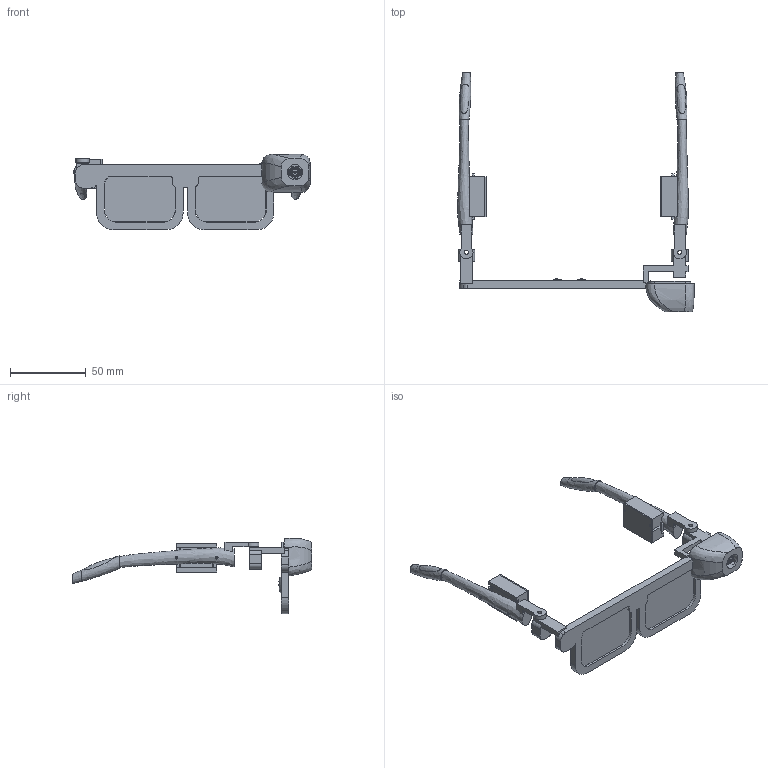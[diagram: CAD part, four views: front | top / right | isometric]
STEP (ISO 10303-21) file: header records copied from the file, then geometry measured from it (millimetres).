
FILE_DESCRIPTION(('FreeCAD Model'),'2;1');
FILE_NAME('Open CASCADE Shape Model','2026-10-29T22:27:29',('FreeCAD'),( 'FreeCAD'),'Open CASCADE STEP processor 7.8','FreeCAD','Unknown');
FILE_SCHEMA(('AUTOMOTIVE_DESIGN { 1 0 10303 214 1 1 1 1 }'));
Products named in the file (1): Open CASCADE STEP translator 7.8 1
Bounding box: 156.17 x 158.4 x 49.79 mm (x, y, z)
Volume: 47664.7 mm3; surface area: 46550.6 mm2
Topology: 119 solids, 124 shells, 4042 faces, 10985 edges, 7196 vertices
Faces by surface type: plane 3080, cylinder 782, bspline 110, cone 31, torus 26, sphere 13
Full cylindrical faces by diameter (mm): 0.5 x3, 0.6 x2, 0.75 x14, 1.3 x4, 1.5 x2, 1.524 x8, 1.72 x1, 1.8 x12, 1.86 x1, 2 x2, 2.7 x4, 2.8 x1, 5.3 x1, 6.32 x1, 6.5 x1, 7.85 x1, 10.2 x1
Entity records: 136935 total; most frequent: CARTESIAN_POINT 34290, ORIENTED_EDGE 21940, DIRECTION 20207, EDGE_CURVE 10970, LINE 8949, VECTOR 8949, VERTEX_POINT 7194, AXIS2_PLACEMENT_3D 5629
